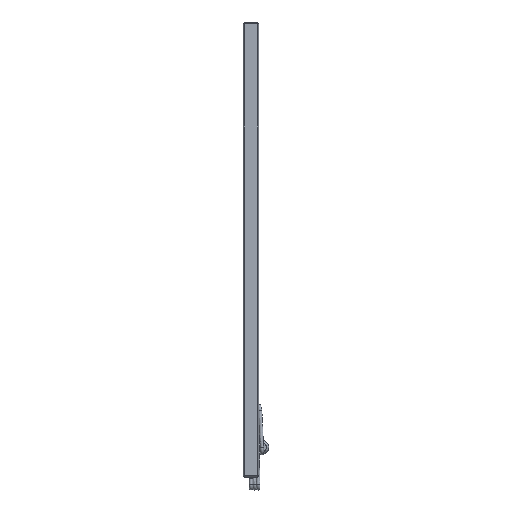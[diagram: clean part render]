
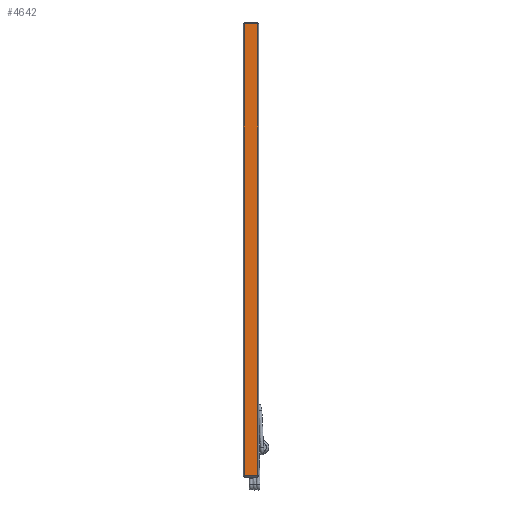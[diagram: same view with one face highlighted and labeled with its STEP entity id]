
A CAD part, front view. The second image highlights one B-rep face of the part: STEP entity #4642.
In plain terms, the highlighted planar face has unit normal (0, -1, 0).
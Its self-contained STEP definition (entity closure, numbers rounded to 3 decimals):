
#4364=CARTESIAN_POINT('',(18.421,0.,1219.2));
#4365=VERTEX_POINT('',#4364);
#4373=CARTESIAN_POINT('',(18.421,0.,0.0));
#4374=VERTEX_POINT('',#4373);
#4375=CARTESIAN_POINT('',(18.421,0.0,1219.2));
#4376=DIRECTION('',(0.0,0.0,-1.0));
#4377=VECTOR('',#4376,1219.2);
#4378=LINE('',#4375,#4377);
#4379=EDGE_CURVE('',#4365,#4374,#4378,.T.);
#4405=CARTESIAN_POINT('',(-18.421,0.,0.0));
#4406=VERTEX_POINT('',#4405);
#4407=CARTESIAN_POINT('',(-18.421,0.,0.0));
#4408=DIRECTION('',(1.0,0.0,0.0));
#4409=VECTOR('',#4408,36.842);
#4410=LINE('',#4407,#4409);
#4411=EDGE_CURVE('',#4406,#4374,#4410,.T.);
#4619=CARTESIAN_POINT('',(18.735,0.0,0.0));
#4620=DIRECTION('',(0.0,-1.0,0.0));
#4621=DIRECTION('',(0.0,0.0,-1.0));
#4622=AXIS2_PLACEMENT_3D('',#4619,#4620,#4621);
#4623=PLANE('',#4622);
#4624=ORIENTED_EDGE('',*,*,#4379,.F.);
#4625=CARTESIAN_POINT('',(-18.421,0.,1219.2));
#4626=VERTEX_POINT('',#4625);
#4627=CARTESIAN_POINT('',(18.421,0.,1219.2));
#4628=DIRECTION('',(-1.0,0.0,0.0));
#4629=VECTOR('',#4628,36.842);
#4630=LINE('',#4627,#4629);
#4631=EDGE_CURVE('',#4365,#4626,#4630,.T.);
#4632=ORIENTED_EDGE('',*,*,#4631,.T.);
#4633=CARTESIAN_POINT('',(-18.421,0.0,0.0));
#4634=DIRECTION('',(0.0,0.0,1.0));
#4635=VECTOR('',#4634,1219.2);
#4636=LINE('',#4633,#4635);
#4637=EDGE_CURVE('',#4406,#4626,#4636,.T.);
#4638=ORIENTED_EDGE('',*,*,#4637,.F.);
#4639=ORIENTED_EDGE('',*,*,#4411,.T.);
#4640=EDGE_LOOP('',(#4624,#4632,#4638,#4639));
#4641=FACE_OUTER_BOUND('',#4640,.T.);
#4642=ADVANCED_FACE('',(#4641),#4623,.T.);
